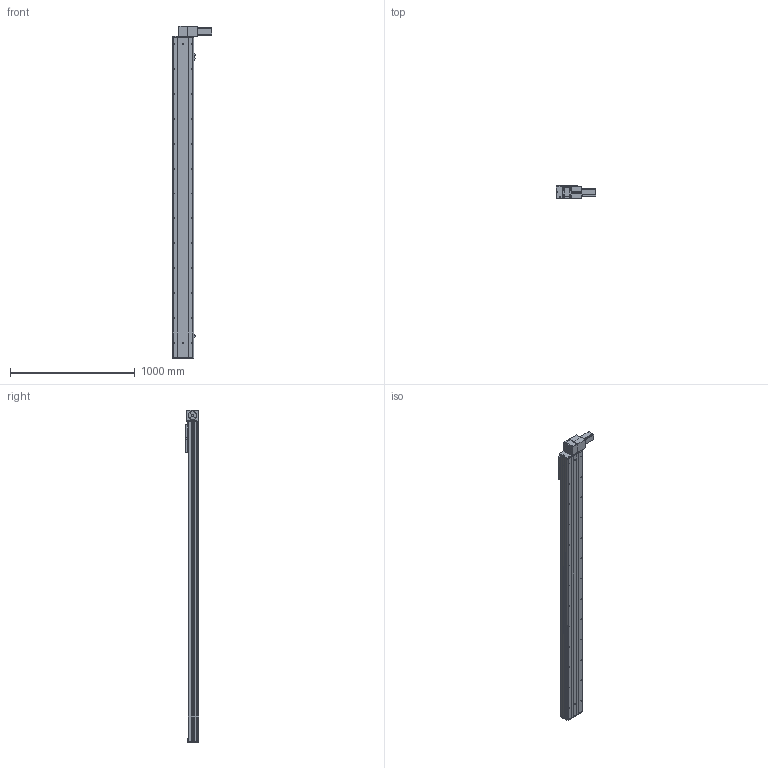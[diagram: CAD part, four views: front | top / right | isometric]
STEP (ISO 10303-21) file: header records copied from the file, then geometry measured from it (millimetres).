
FILE_DESCRIPTION (( 'STEP AP203' ), '1' );
FILE_NAME ('Y170CB-D105-S2250-BD-P400W.STEP', '2020-02-20T09:05:22', ( '微软用户' ), ( '微软中国' ), 'SwSTEP 2.0', 'SolidWorks 2017', '' );
FILE_SCHEMA (( 'CONFIG_CONTROL_DESIGN' ));
Length unit declared in the file: millimetre
Products named in the file (16): Y100-135俋离換覜ん--; 70CB-掛极-; Y170CB-陔俋离換覜結え---; --70CB --喘謫眊楊擘啣-; Y1埴倛裔; 70CB-耜裔啣-; 70B喘謫眊----; 70C--詩湍揤踡え-; 0B薊粣ん眊-400W--; 70CB--耜裔; Y170CB-D105-S2250-BD-P400W; 70C-雄赽釱-奻-; 0C--雄赽釱俋欶-170; B-源倛裔啣; 70CB-詩湍--; san松下电机400不带刹车----
Assembly tree (19 placements, depth 2):
  Y170CB-D105-S2250-BD-P400W
    B-源倛裔啣
    san松下电机400不带刹车----
    70CB-掛极-
    --70CB --喘謫眊楊擘啣-
    70CB-耜裔啣-  x2
    70C--詩湍揤踡え-  x2
    70CB--耜裔
    70C-雄赽釱-奻-
    0C--雄赽釱俋欶-170
    70CB-詩湍--
    Y100-135俋离換覜ん--  x3
    Y170CB-陔俋离換覜結え---
    Y1埴倛裔
    70B喘謫眊----
    0B薊粣ん眊-400W--
Bounding box: 313.5 x 107 x 2666 mm (x, y, z)
Volume: 11748883.9 mm3; surface area: 4107752.7 mm2
Topology: 19 solids, 19 shells, 968 faces, 2570 edges, 1704 vertices
Faces by surface type: cylinder 522, plane 422, cone 24
Entity records: 30471 total; most frequent: CARTESIAN_POINT 5686, DIRECTION 4959, ORIENTED_EDGE 4622, EDGE_CURVE 2311, AXIS2_PLACEMENT_3D 1841, VERTEX_POINT 1534, LINE 1277, VECTOR 1277
